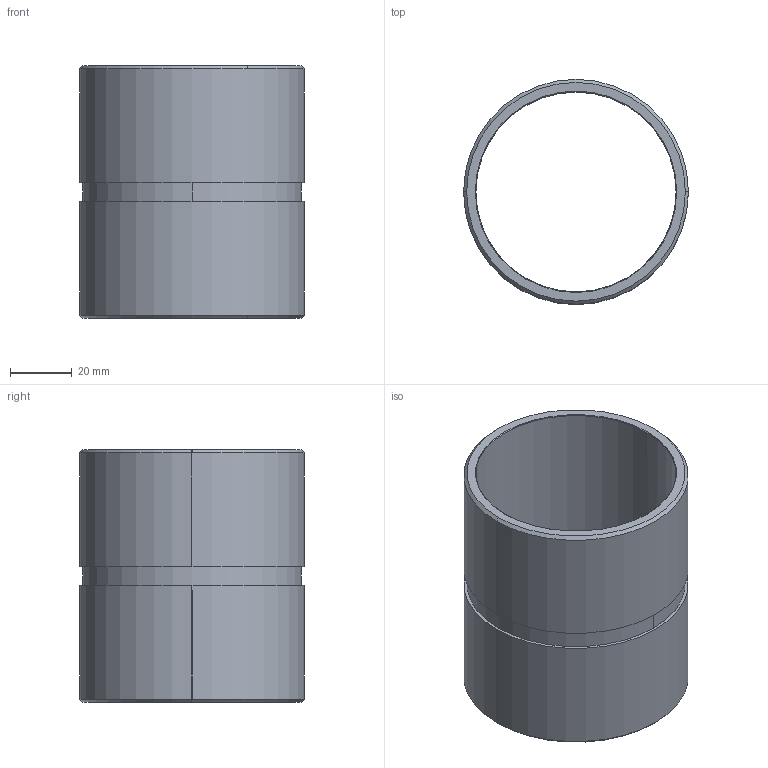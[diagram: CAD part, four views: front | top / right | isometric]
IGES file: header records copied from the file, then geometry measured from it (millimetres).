
Start section: START RECORD GO HERE.
Global section: file name: C104-02-070-080.igs; native system: DASSAULT SYSTEMES CATIA V5 R20 - www.3ds.com; preprocessor: CATIA Version 5 Release 20 ; author: Utente; organization: NB04-ASUS; date: 20200422.153525; units: millimetre
Bounding box: 73 x 73 x 82 mm (x, y, z)
Surface area: 37380.1 mm2 (no closed solid volume)
Topology: 0 solids, 0 shells, 24 faces, 104 edges, 104 vertices
Faces by surface type: revolution 20, plane 4
